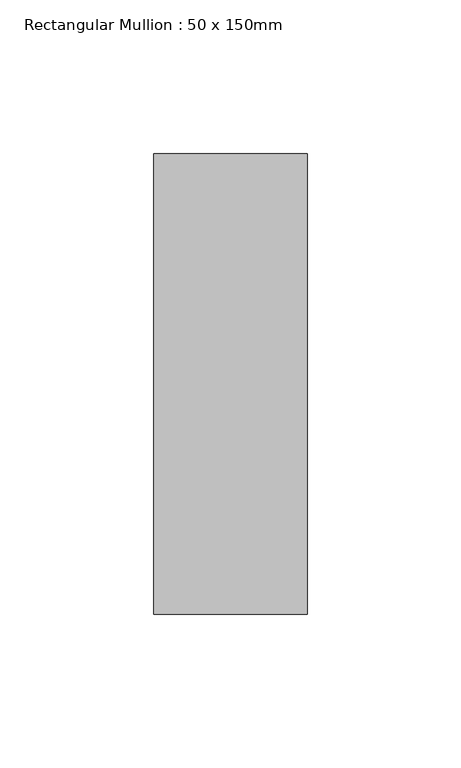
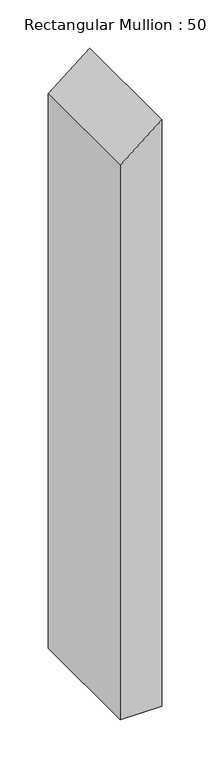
"""IFC4 building model written with IfcOpenShell, lengths in millimetres: member geometry, Rectangular Mullion : 50 x 150mm."""

from ifc_helpers import new_model, si_unit, frame, origin, place, context, project, spatial, polyline, outline, extrude, source, transform, mapped, element, save


def rectangular_mullion_50_x_150mm_560a7013(model_context):
    return source(origin(), model_context, "Body", "SweptSolid", [
        extrude(outline(polyline([(0.0, 0.0), (-40.4383755, -50.0), (-745.4270576, -50.0), (-745.4270576, 0.0), (0.0, 0.0)])), frame((0.0, -75.0, 0.0), z_axis=(0.0, 1.0, 0.0), x_axis=(0.0, 0.0, 1.0)), (0.0, 0.0, 1.0), 150.0),
    ])


if __name__ == "__main__":
    model = new_model("IFC4")
    model_context = context("Model", 3, world=origin())
    ifc_project = project(units=[si_unit("LENGTHUNIT", "METRE", prefix="MILLI")], contexts=[model_context])
    site = spatial("IfcSite", under=ifc_project)
    building = spatial("IfcBuilding", under=site)
    placement = place(None, origin())
    rectangular_mullion_50_x_150mm_shape = rectangular_mullion_50_x_150mm_560a7013(model_context)
    element("IfcMember", 1, ObjectType="Rectangular Mullion : 50 x 150mm", at=placement, inside=building, context=model_context, shape_type="MappedRepresentation", body=[
        mapped(rectangular_mullion_50_x_150mm_shape, transform((0.0, 0.0, 0.0), x_axis=(1.0, 0.0, 0.0), y_axis=(0.0, 1.0, 0.0), z_axis=(0.0, 0.0, 1.0))),
    ])
    save(model, "model.ifc")
